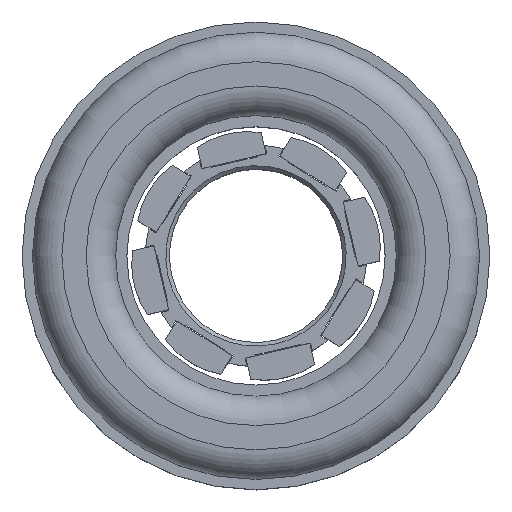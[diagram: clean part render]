
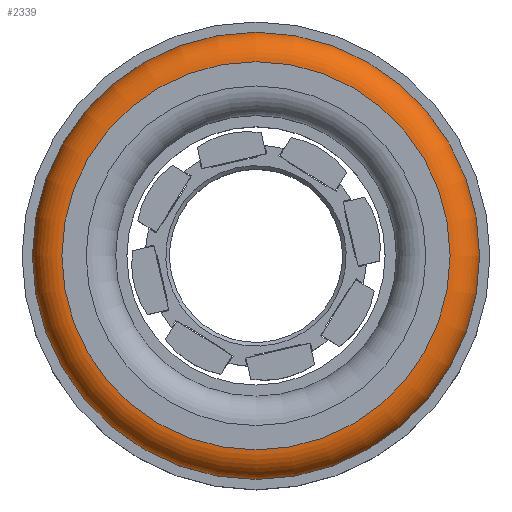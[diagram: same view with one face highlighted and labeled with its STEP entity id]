
A CAD part, top view. The second image highlights one B-rep face of the part: STEP entity #2339.
In plain terms, the highlighted toroidal (fillet/blend) face has major radius 26.35 mm and minor radius 4 mm.
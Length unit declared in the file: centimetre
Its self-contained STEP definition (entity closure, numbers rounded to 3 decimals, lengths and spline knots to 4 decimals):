
#15=TOROIDAL_SURFACE($,#2513,2.635,0.4);
#22=FACE_BOUND($,#303,.T.);
#158=FACE_OUTER_BOUND($,#302,.T.);
#302=EDGE_LOOP($,(#1587));
#303=EDGE_LOOP($,(#1588));
#461=CIRCLE($,#2512,2.635);
#462=CIRCLE($,#2514,3.035);
#1033=VERTEX_POINT($,#3383);
#1034=VERTEX_POINT($,#3386);
#1255=EDGE_CURVE($,#1033,#1033,#461,.T.);
#1256=EDGE_CURVE($,#1034,#1034,#462,.T.);
#1587=ORIENTED_EDGE($,*,*,#1256,.F.);
#1588=ORIENTED_EDGE($,*,*,#1255,.T.);
#2339=ADVANCED_FACE($,(#158,#22),#15,.T.);
#2512=AXIS2_PLACEMENT_3D($,#3384,#2739,#2740);
#2513=AXIS2_PLACEMENT_3D($,#3385,#2741,#2742);
#2514=AXIS2_PLACEMENT_3D($,#3387,#2743,#2744);
#2739=DIRECTION('center_axis',(0.,0.,-1.));
#2740=DIRECTION('ref_axis',(0.,1.,0.));
#2741=DIRECTION('center_axis',(0.,0.,-1.));
#2742=DIRECTION('ref_axis',(-1.,0.,0.));
#2743=DIRECTION('center_axis',(0.,0.,-1.));
#2744=DIRECTION('ref_axis',(0.,1.,0.));
#3383=CARTESIAN_POINT('',(0.,2.635,1.595));
#3384=CARTESIAN_POINT('Origin',(0.,0.,1.595));
#3385=CARTESIAN_POINT('Origin',(0.,0.,1.195));
#3386=CARTESIAN_POINT('',(0.,3.035,1.195));
#3387=CARTESIAN_POINT('Origin',(0.,0.,1.195));
